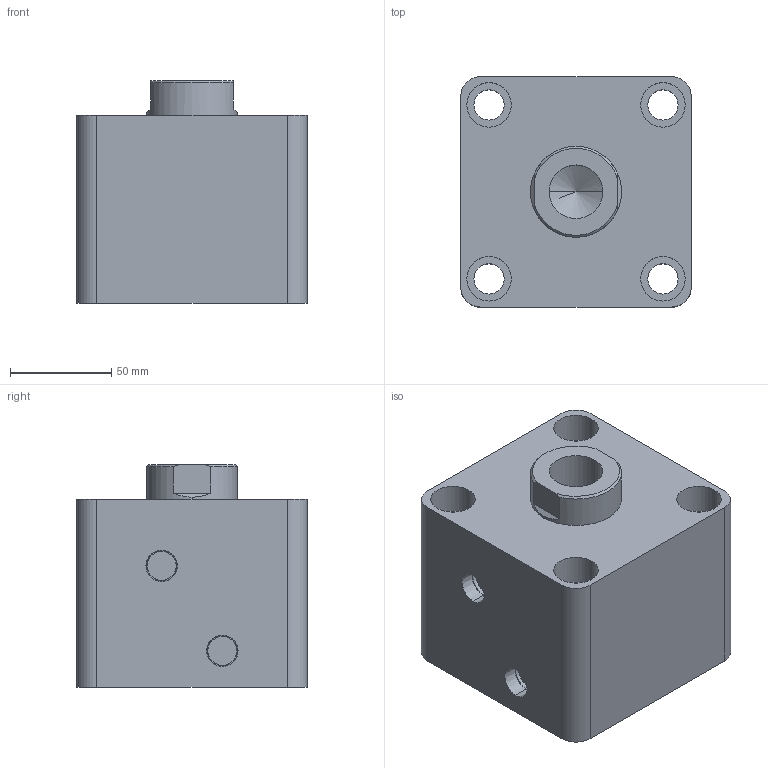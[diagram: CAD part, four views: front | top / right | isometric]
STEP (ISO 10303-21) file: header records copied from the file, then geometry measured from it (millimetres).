
FILE_DESCRIPTION (( 'STEP AP203' ), '1' );
FILE_NAME ('HTB-SD80-15N.STEP', '2019-10-07T08:13:23', ( '微软用户' ), ( '微软中国' ), 'SwSTEP 2.0', 'SolidWorks 2012', '' );
FILE_SCHEMA (( 'CONFIG_CONTROL_DESIGN' ));
Length unit declared in the file: millimetre
Products named in the file (3): HTB-SD80-15N; HTB-SD80-15N活塞杆; HTB-SD80-15掛极
Assembly tree (2 placements, depth 2):
  HTB-SD80-15N
    HTB-SD80-15掛极
    HTB-SD80-15N活塞杆
Bounding box: 114 x 114 x 110 mm (x, y, z)
Volume: 1060719.3 mm3; surface area: 138842.3 mm2
Topology: 2 solids, 2 shells, 83 faces, 184 edges, 119 vertices
Faces by surface type: cylinder 42, plane 27, cone 8, torus 6
Entity records: 2655 total; most frequent: DIRECTION 456, CARTESIAN_POINT 417, ORIENTED_EDGE 364, AXIS2_PLACEMENT_3D 194, EDGE_CURVE 182, VERTEX_POINT 119, EDGE_LOOP 107, CIRCLE 106
